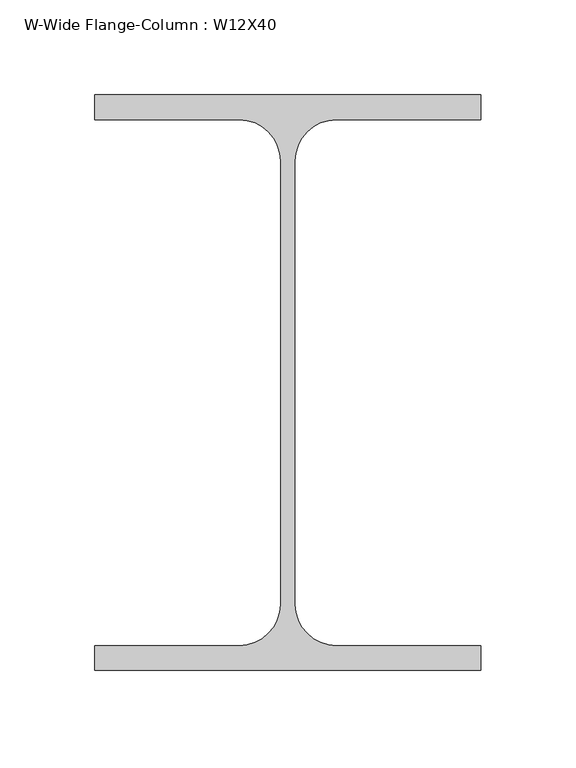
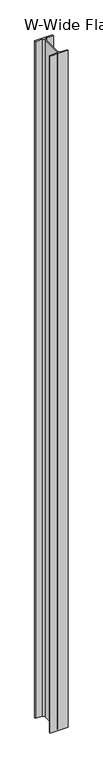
"""IFC4 building model written with IfcOpenShell, lengths in millimetres: column geometry, W-Wide Flange-Column : W12X40."""

from ifc_helpers import new_model, si_unit, point, frame, frame_2d, origin, place, context, project, spatial, polyline, circle_curve, trimmed, segment, composite_curve, outline, extrude, source, transform, mapped, element, save


def w_wide_flange_column_w12x40_d1cfc84d(model_context):
    return source(origin(), model_context, "Body", "SweptSolid", [
        extrude(outline(composite_curve([segment(polyline([(101.6496094, 151.6558594), (101.6496094, 138.5589844), (25.5984375, 138.5589844)]), True, "CONTINUOUS"), segment(trimmed(circle_curve(frame_2d((25.5984375, 116.7308594)), 21.828125), [point((25.5984375, 138.5589844))], [point((3.7703125, 116.7308594))], True, "CARTESIAN"), True, "CONTINUOUS"), segment(polyline([(3.7703125, 116.7308594), (3.7703125, -116.7308594)]), True, "CONTINUOUS"), segment(trimmed(circle_curve(frame_2d((25.5984375, -116.7308594)), 21.828125), [point((3.7703125, -116.7308594))], [point((25.5984375, -138.5589844))], True, "CARTESIAN"), True, "CONTINUOUS"), segment(polyline([(25.5984375, -138.5589844), (101.6496094, -138.5589844), (101.6496094, -151.6558594), (-101.6496094, -151.6558594), (-101.6496094, -138.5589844), (-25.5984375, -138.5589844)]), True, "CONTINUOUS"), segment(trimmed(circle_curve(frame_2d((-25.5984375, -116.7308594)), 21.828125), [point((-25.5984375, -138.5589844))], [point((-3.7703125, -116.7308594))], True, "CARTESIAN"), True, "CONTINUOUS"), segment(polyline([(-3.7703125, -116.7308594), (-3.7703125, 116.7308594)]), True, "CONTINUOUS"), segment(trimmed(circle_curve(frame_2d((-25.5984375, 116.7308594)), 21.828125), [point((-3.7703125, 116.7308594))], [point((-25.5984375, 138.5589844))], True, "CARTESIAN"), True, "CONTINUOUS"), segment(polyline([(-25.5984375, 138.5589844), (-101.6496094, 138.5589844), (-101.6496094, 151.6558594), (101.6496094, 151.6558594)]), True, "CONTINUOUS")], self_intersect=False)), frame((0.0, 0.0, 30302.2), z_axis=(0.0, 0.0, 1.0), x_axis=(1.0, 0.0, 0.0)), (0.0, 0.0, 1.0), 8102.6),
    ])


if __name__ == "__main__":
    model = new_model("IFC4")
    model_context = context("Model", 3, world=origin())
    ifc_project = project(units=[si_unit("LENGTHUNIT", "METRE", prefix="MILLI")], contexts=[model_context])
    site = spatial("IfcSite", under=ifc_project)
    building = spatial("IfcBuilding", under=site)
    placement = place(None, origin())
    w_wide_flange_column_w12x40_shape = w_wide_flange_column_w12x40_d1cfc84d(model_context)
    element("IfcColumn", 1, ObjectType="W-Wide Flange-Column : W12X40", at=placement, inside=building, context=model_context, shape_type="MappedRepresentation", body=[
        mapped(w_wide_flange_column_w12x40_shape, transform((0.0, 0.0, 0.0), x_axis=(1.0, 0.0, 0.0), y_axis=(0.0, 1.0, 0.0), z_axis=(0.0, 0.0, 1.0))),
    ])
    save(model, "model.ifc")
